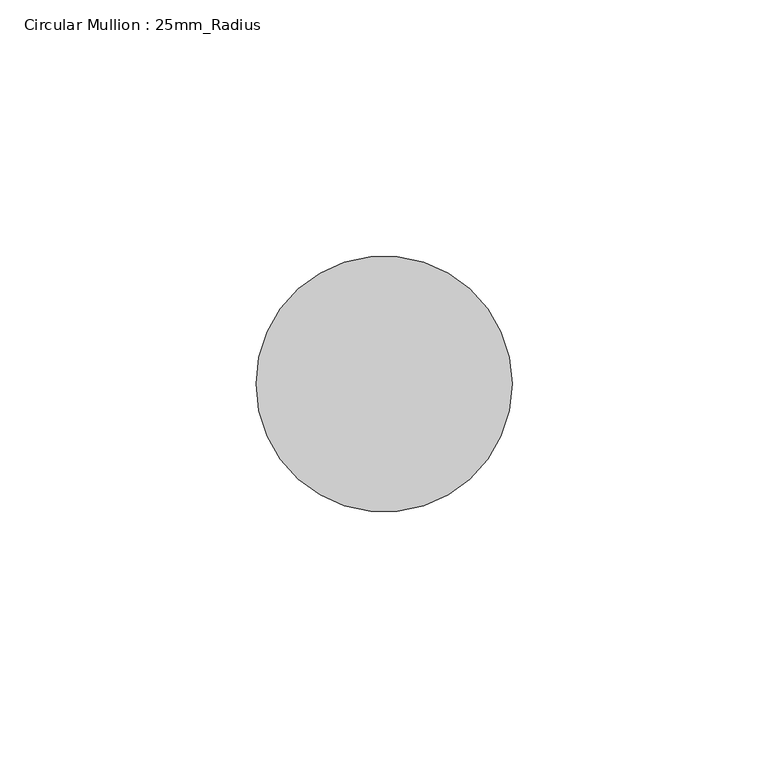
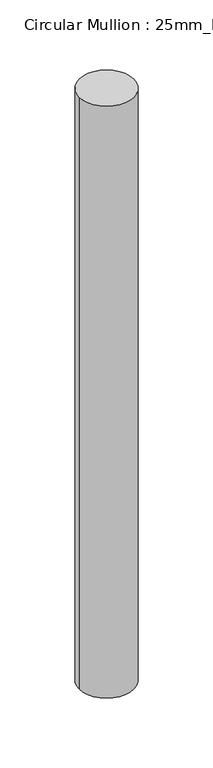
"""IFC4 building model written with IfcOpenShell, lengths in millimetres: member geometry, Circular Mullion : 25mm_Radius."""

from ifc_helpers import new_model, si_unit, point, frame, frame_2d, origin, place, context, project, spatial, circle_curve, trimmed, segment, composite_curve, outline, extrude, source, transform, mapped, element, save


def circular_mullion_25mm_radius_c630b7a6(model_context):
    return source(origin(), model_context, "Body", "SweptSolid", [
        extrude(outline(composite_curve([segment(trimmed(circle_curve(frame_2d((-25.0, 0.0)), 25.0), [point((0.0, 0.0))], [point((-50.0, 0.0))], False, "CARTESIAN"), True, "CONTINUOUS"), segment(trimmed(circle_curve(frame_2d((-25.0, 0.0)), 25.0), [point((-50.0, 0.0))], [point((0.0, 0.0))], False, "CARTESIAN"), True, "CONTINUOUS")], self_intersect=False)), frame((0.0, 0.0, -570.0395948), z_axis=(0.0, 0.0, 1.0), x_axis=(1.0, 0.0, 0.0)), (0.0, 0.0, 1.0), 570.0395948),
    ])


if __name__ == "__main__":
    model = new_model("IFC4")
    model_context = context("Model", 3, world=origin())
    ifc_project = project(units=[si_unit("LENGTHUNIT", "METRE", prefix="MILLI")], contexts=[model_context])
    site = spatial("IfcSite", under=ifc_project)
    building = spatial("IfcBuilding", under=site)
    placement = place(None, origin())
    circular_mullion_25mm_radius_shape = circular_mullion_25mm_radius_c630b7a6(model_context)
    element("IfcMember", 1, ObjectType="Circular Mullion : 25mm_Radius", at=placement, inside=building, context=model_context, shape_type="MappedRepresentation", body=[
        mapped(circular_mullion_25mm_radius_shape, transform((0.0, 0.0, 0.0), x_axis=(1.0, 0.0, 0.0), y_axis=(0.0, 1.0, 0.0), z_axis=(0.0, 0.0, 1.0))),
    ])
    save(model, "model.ifc")
